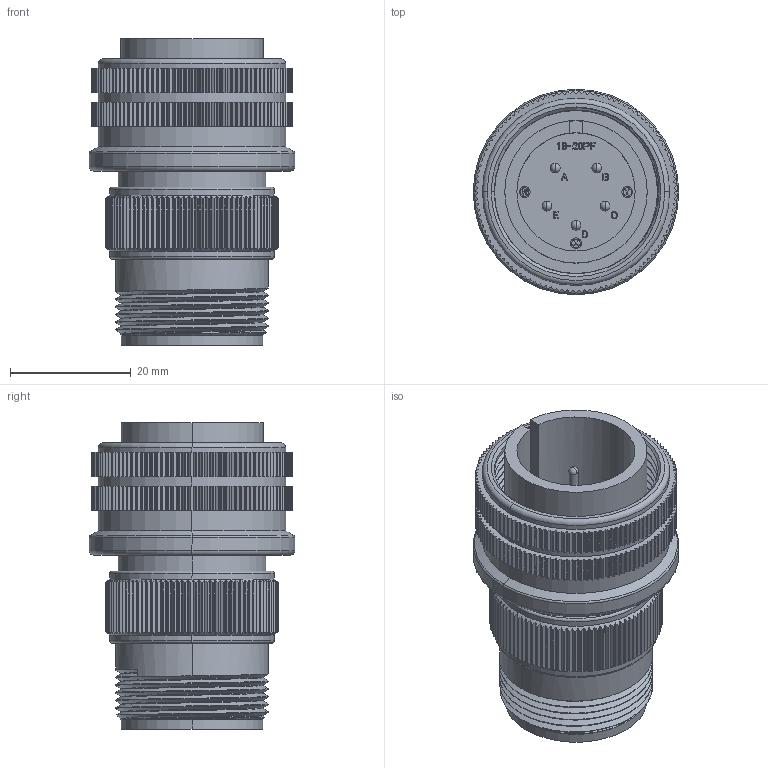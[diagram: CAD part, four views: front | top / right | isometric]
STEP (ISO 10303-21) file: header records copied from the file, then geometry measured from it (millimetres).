
FILE_DESCRIPTION (( 'STEP AP203' ), '1' );
FILE_NAME ('DMS3106A18-20P.STEP', '2017-07-10T00:29:07', ( '' ), ( '' ), 'SwSTEP 2.0', 'SolidWorks 2015', '' );
FILE_SCHEMA (( 'CONFIG_CONTROL_DESIGN' ));
Length unit declared in the file: millimetre
Products named in the file (1): DMS3106A18-20P
Bounding box: 34.08 x 34.08 x 50.81 mm (x, y, z)
Volume: 17723.5 mm3; surface area: 15946.9 mm2
Topology: 1 solids, 1 shells, 2819 faces, 8183 edges, 5425 vertices
Faces by surface type: cylinder 1572, plane 960, bspline 238, cone 26, torus 13, sphere 10
Entity records: 108051 total; most frequent: CARTESIAN_POINT 35373, ORIENTED_EDGE 16326, DIRECTION 14106, EDGE_CURVE 8163, VERTEX_POINT 5425, AXIS2_PLACEMENT_3D 5014, LINE 4078, VECTOR 4078
